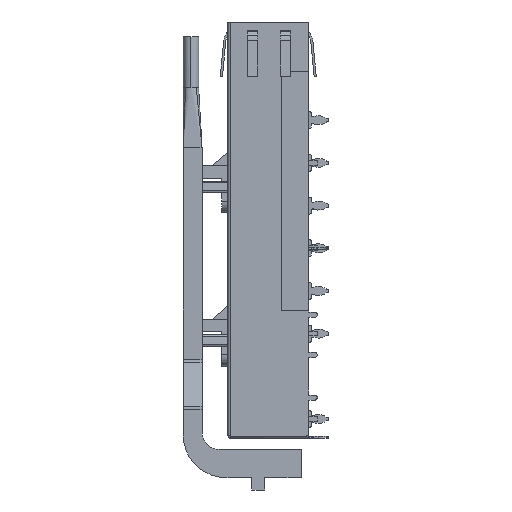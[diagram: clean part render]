
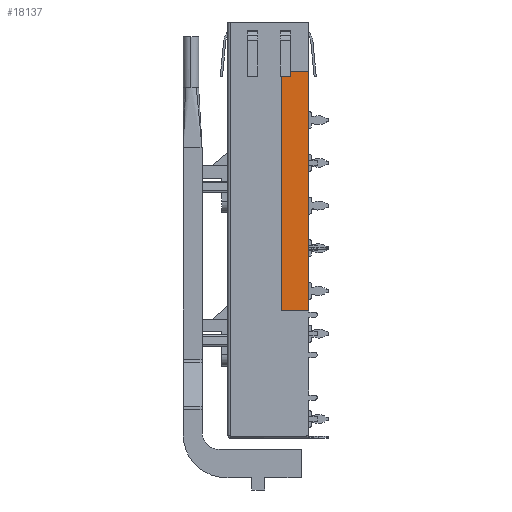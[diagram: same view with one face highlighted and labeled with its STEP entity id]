
A CAD part, left-side view. The second image highlights one B-rep face of the part: STEP entity #18137.
In plain terms, the highlighted planar face has unit normal (-1, 0, 0).
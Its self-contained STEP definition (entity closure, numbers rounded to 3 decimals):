
#111 = DIRECTION ( 'NONE',  ( 1., 0., 0. ) ) ;
#598 = CARTESIAN_POINT ( 'NONE',  ( -14.625, 3.2, -33.8 ) ) ;
#646 = CARTESIAN_POINT ( 'NONE',  ( -14.625, 3.2, -5.8 ) ) ;
#1889 = VERTEX_POINT ( 'NONE', #646 ) ;
#3506 = ORIENTED_EDGE ( 'NONE', *, *, #13477, .F. ) ;
#5099 = ORIENTED_EDGE ( 'NONE', *, *, #5734, .F. ) ;
#5734 = EDGE_CURVE ( 'NONE', #18404, #1889, #25597, .T. ) ;
#6572 = VERTEX_POINT ( 'NONE', #15333 ) ;
#6581 = DIRECTION ( 'NONE',  ( 0., 1., 0. ) ) ;
#9971 = VECTOR ( 'NONE', #24833, 1000. ) ;
#10518 = VECTOR ( 'NONE', #15639, 1000. ) ;
#10841 = DIRECTION ( 'NONE',  ( 0., 0., 1. ) ) ;
#11216 = ORIENTED_EDGE ( 'NONE', *, *, #11392, .F. ) ;
#11392 = EDGE_CURVE ( 'NONE', #1889, #11686, #26762, .T. ) ;
#11686 = VERTEX_POINT ( 'NONE', #28205 ) ;
#11901 = LINE ( 'NONE', #12653, #24208 ) ;
#12653 = CARTESIAN_POINT ( 'NONE',  ( -14.625, 0., -33.8 ) ) ;
#13269 = CARTESIAN_POINT ( 'NONE',  ( -14.625, 0., 0. ) ) ;
#13454 = PLANE ( 'NONE',  #21494 ) ;
#13477 = EDGE_CURVE ( 'NONE', #11686, #6572, #25969, .T. ) ;
#15278 = DIRECTION ( 'NONE',  ( 0., 0., -1. ) ) ;
#15333 = CARTESIAN_POINT ( 'NONE',  ( -14.625, 0., -33.8 ) ) ;
#15639 = DIRECTION ( 'NONE',  ( 0., 0., 1. ) ) ;
#15784 = VECTOR ( 'NONE', #15278, 1000. ) ;
#18137 = ADVANCED_FACE ( 'NONE', ( #24506 ), #13454, .F. ) ;
#18404 = VERTEX_POINT ( 'NONE', #598 ) ;
#21494 = AXIS2_PLACEMENT_3D ( 'NONE', #13269, #111, #10841 ) ;
#22065 = ORIENTED_EDGE ( 'NONE', *, *, #24959, .F. ) ;
#22359 = CARTESIAN_POINT ( 'NONE',  ( -14.625, 0., -5.8 ) ) ;
#22789 = CARTESIAN_POINT ( 'NONE',  ( -14.625, 0., -5.8 ) ) ;
#24208 = VECTOR ( 'NONE', #6581, 1000. ) ;
#24506 = FACE_OUTER_BOUND ( 'NONE', #27965, .T. ) ;
#24833 = DIRECTION ( 'NONE',  ( 0., -1., 0. ) ) ;
#24959 = EDGE_CURVE ( 'NONE', #6572, #18404, #11901, .T. ) ;
#25597 = LINE ( 'NONE', #26996, #10518 ) ;
#25969 = LINE ( 'NONE', #22359, #15784 ) ;
#26762 = LINE ( 'NONE', #22789, #9971 ) ;
#26996 = CARTESIAN_POINT ( 'NONE',  ( -14.625, 3.2, -5.8 ) ) ;
#27965 = EDGE_LOOP ( 'NONE', ( #11216, #5099, #22065, #3506 ) ) ;
#28205 = CARTESIAN_POINT ( 'NONE',  ( -14.625, 0., -5.8 ) ) ;
